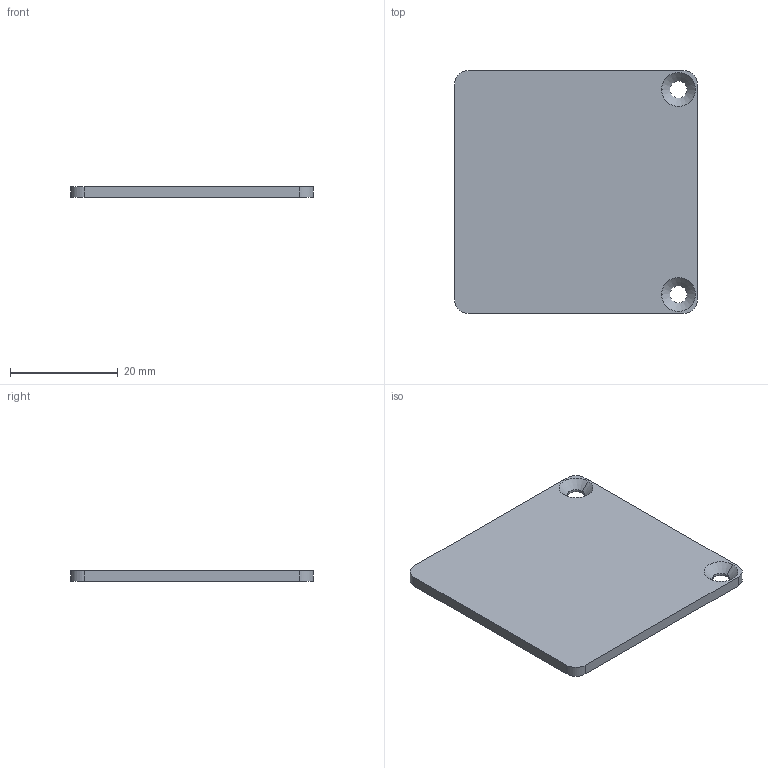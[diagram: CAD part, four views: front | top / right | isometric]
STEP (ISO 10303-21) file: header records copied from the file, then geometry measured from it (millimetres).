
FILE_DESCRIPTION (( 'STEP AP214' ), '1' );
FILE_NAME ('084.201.053.STEP', '2021-02-05T09:57:47', ( '' ), ( '' ), 'SwSTEP 2.0', 'SolidWorks 2018', '' );
FILE_SCHEMA (( 'AUTOMOTIVE_DESIGN' ));
Length unit declared in the file: millimetre
Products named in the file (1): 084.201.053
Bounding box: 45 x 45 x 2 mm (x, y, z)
Volume: 3975.1 mm3; surface area: 4386.7 mm2
Topology: 1 solids, 1 shells, 18 faces, 44 edges, 28 vertices
Faces by surface type: cylinder 8, plane 6, cone 4
Entity records: 578 total; most frequent: DIRECTION 102, CARTESIAN_POINT 91, ORIENTED_EDGE 88, EDGE_CURVE 44, AXIS2_PLACEMENT_3D 39, VERTEX_POINT 28, VECTOR 24, LINE 24
